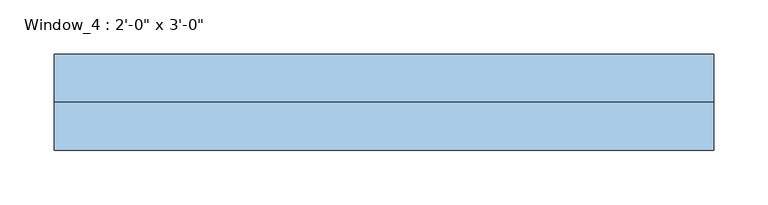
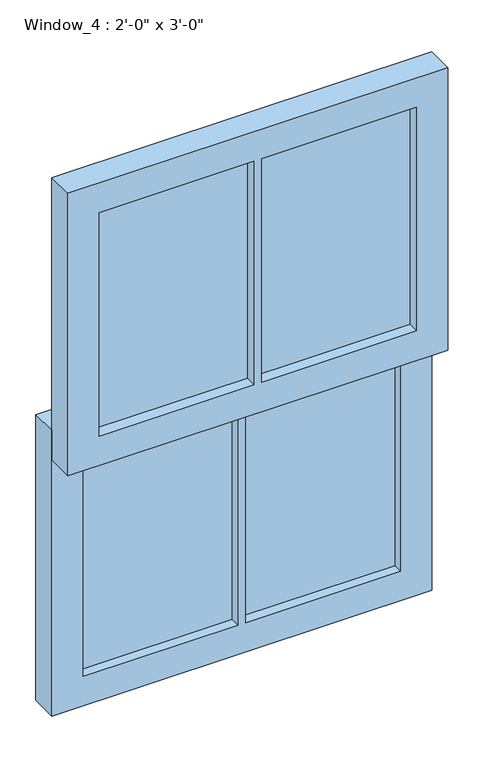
"""IFC4 building model written with IfcOpenShell, lengths in millimetres: window geometry."""

from ifc_helpers import new_model, si_unit, frame, origin, place, context, project, spatial, polyline, outline, extrude, source, transform, mapped, element, save


def window_5398d301(model_context):
    return source(origin(), model_context, "Body", "SweptSolid", [
        extrude(outline(polyline([(-6.35, -57.15), (-6.35, -64.0853592), (-254.8, -64.0853592), (-254.8, -57.15), (-6.35, -57.15)])), frame((0.0, 0.0, 1323.175), z_axis=(0.0, 0.0, 1.0), x_axis=(1.0, 0.0, 0.0)), (0.0, 0.0, 1.0), 379.425),
        extrude(outline(polyline([(254.8, -57.15), (254.8, -64.0853592), (6.35, -64.0853592), (6.35, -57.15), (254.8, -57.15)])), frame((0.0, 0.0, 1323.175), z_axis=(0.0, 0.0, 1.0), x_axis=(1.0, 0.0, 0.0)), (0.0, 0.0, 1.0), 379.425),
        extrude(outline(polyline([(1752.6, -304.8), (1273.175, -304.8), (1273.175, 304.8), (1752.6, 304.8), (1752.6, -304.8)]), holes=[polyline([(1702.6, 6.35), (1702.6, 254.8), (1323.175, 254.8), (1323.175, 6.35), (1702.6, 6.35)]), polyline([(1323.175, -254.8), (1702.6, -254.8), (1702.6, -6.35), (1323.175, -6.35), (1323.175, -254.8)])]), frame((0.0, -82.55, 0.0), z_axis=(0.0, 1.0, 0.0), x_axis=(0.0, 0.0, 1.0)), (0.0, 0.0, 1.0), 44.45),
        extrude(outline(polyline([(6.35, -22.225), (6.35, -9.525), (254.8, -9.525), (254.8, -22.225), (6.35, -22.225)])), frame((0.0, 0.0, 888.2), z_axis=(0.0, 0.0, 1.0), x_axis=(1.0, 0.0, 0.0)), (0.0, 0.0, 1.0), 384.975),
        extrude(outline(polyline([(-254.8, -22.225), (-254.8, -9.525), (-6.35, -9.525), (-6.35, -22.225), (-254.8, -22.225)])), frame((0.0, 0.0, 888.2), z_axis=(0.0, 0.0, 1.0), x_axis=(1.0, 0.0, 0.0)), (0.0, 0.0, 1.0), 384.975),
        extrude(outline(polyline([(1323.175, -304.8), (838.2, -304.8), (838.2, 304.8), (1323.175, 304.8), (1323.175, -304.8)]), holes=[polyline([(888.2, -254.8), (1273.175, -254.8), (1273.175, -6.35), (888.2, -6.35), (888.2, -254.8)]), polyline([(1273.175, 6.35), (1273.175, 254.8), (888.2, 254.8), (888.2, 6.35), (1273.175, 6.35)])]), frame((0.0, -38.1, 0.0), z_axis=(0.0, 1.0, 0.0), x_axis=(0.0, 0.0, 1.0)), (0.0, 0.0, 1.0), 44.45),
    ])


if __name__ == "__main__":
    model = new_model("IFC4")
    model_context = context("Model", 3, world=origin())
    ifc_project = project(units=[si_unit("LENGTHUNIT", "METRE", prefix="MILLI")], contexts=[model_context])
    site = spatial("IfcSite", under=ifc_project)
    building = spatial("IfcBuilding", under=site)
    placement = place(None, origin())
    window_shape = window_5398d301(model_context)
    element("IfcWindow", 1, ObjectType="Window_4 : 2'-0\" x 3'-0\"", at=placement, inside=building, context=model_context, shape_type="MappedRepresentation", body=[
        mapped(window_shape, transform((0.0, 0.0, 0.0), x_axis=(1.0, 0.0, 0.0), y_axis=(0.0, 1.0, 0.0), z_axis=(0.0, 0.0, 1.0))),
    ])
    save(model, "model.ifc")
